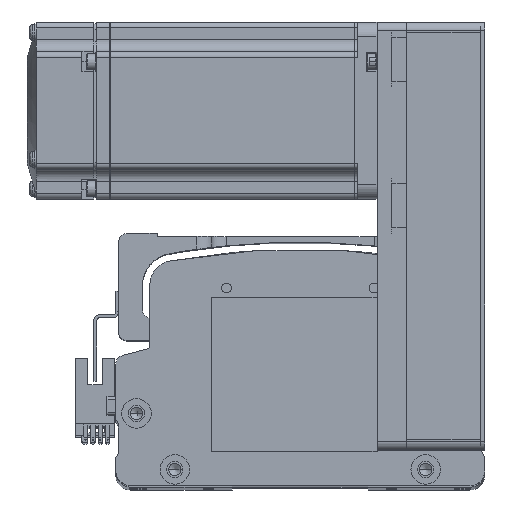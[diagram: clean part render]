
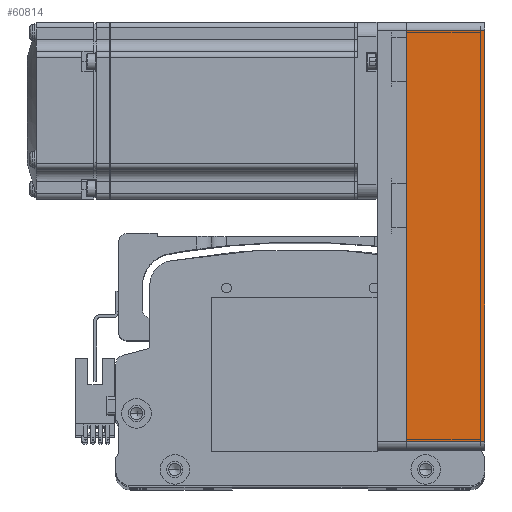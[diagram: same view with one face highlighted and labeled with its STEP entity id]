
A CAD part, top view. The second image highlights one B-rep face of the part: STEP entity #60814.
In plain terms, the highlighted planar face has unit normal (0, 0, 1) as drawn and (0, 1, 0) by its records, which use the part's own axes.
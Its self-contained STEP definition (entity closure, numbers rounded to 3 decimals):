
#7543 = VECTOR ( 'NONE', #35269, 1000. ) ;
#9517 = LINE ( 'NONE', #79017, #7543 ) ;
#12102 = ORIENTED_EDGE ( 'NONE', *, *, #20622, .T. ) ;
#13449 = ORIENTED_EDGE ( 'NONE', *, *, #74999, .T. ) ;
#16371 = CARTESIAN_POINT ( 'NONE',  ( 72.5, 30., 26.5 ) ) ;
#17771 = VECTOR ( 'NONE', #60353, 1000. ) ;
#19290 = ORIENTED_EDGE ( 'NONE', *, *, #47598, .F. ) ;
#19753 = LINE ( 'NONE', #29119, #17771 ) ;
#20543 = FACE_OUTER_BOUND ( 'NONE', #56165, .T. ) ;
#20622 = EDGE_CURVE ( 'NONE', #23557, #30049, #77676, .T. ) ;
#22688 = DIRECTION ( 'NONE',  ( 1., 0., 0. ) ) ;
#23557 = VERTEX_POINT ( 'NONE', #38605 ) ;
#27708 = VECTOR ( 'NONE', #54277, 1000. ) ;
#29119 = CARTESIAN_POINT ( 'NONE',  ( 69.5, 30., 26.5 ) ) ;
#30049 = VERTEX_POINT ( 'NONE', #59724 ) ;
#30760 = LINE ( 'NONE', #73539, #80712 ) ;
#31393 = EDGE_CURVE ( 'NONE', #80261, #79795, #19753, .T. ) ;
#31808 = AXIS2_PLACEMENT_3D ( 'NONE', #16371, #60228, #22688 ) ;
#35269 = DIRECTION ( 'NONE',  ( -1., 0., 0. ) ) ;
#35702 = CARTESIAN_POINT ( 'NONE',  ( -69.5, 30., 26.5 ) ) ;
#38605 = CARTESIAN_POINT ( 'NONE',  ( -69.5, 30., 0. ) ) ;
#38711 = ORIENTED_EDGE ( 'NONE', *, *, #31393, .T. ) ;
#47598 = EDGE_CURVE ( 'NONE', #80261, #30049, #30760, .T. ) ;
#48327 = DIRECTION ( 'NONE',  ( -1., 0., 0. ) ) ;
#54277 = DIRECTION ( 'NONE',  ( 0., 0., 1. ) ) ;
#56165 = EDGE_LOOP ( 'NONE', ( #13449, #12102, #19290, #38711 ) ) ;
#56330 = CARTESIAN_POINT ( 'NONE',  ( 69.5, 30., 0. ) ) ;
#59724 = CARTESIAN_POINT ( 'NONE',  ( -69.5, 30., 26.5 ) ) ;
#59955 = PLANE ( 'NONE',  #31808 ) ;
#60228 = DIRECTION ( 'NONE',  ( 0., -1., 0. ) ) ;
#60353 = DIRECTION ( 'NONE',  ( 0., 0., -1. ) ) ;
#60814 = ADVANCED_FACE ( 'NONE', ( #20543 ), #59955, .F. ) ;
#73515 = CARTESIAN_POINT ( 'NONE',  ( 69.5, 30., 26.5 ) ) ;
#73539 = CARTESIAN_POINT ( 'NONE',  ( 72.5, 30., 26.5 ) ) ;
#74999 = EDGE_CURVE ( 'NONE', #79795, #23557, #9517, .T. ) ;
#77676 = LINE ( 'NONE', #35702, #27708 ) ;
#79017 = CARTESIAN_POINT ( 'NONE',  ( 72.5, 30., 0. ) ) ;
#79795 = VERTEX_POINT ( 'NONE', #56330 ) ;
#80261 = VERTEX_POINT ( 'NONE', #73515 ) ;
#80712 = VECTOR ( 'NONE', #48327, 1000. ) ;
